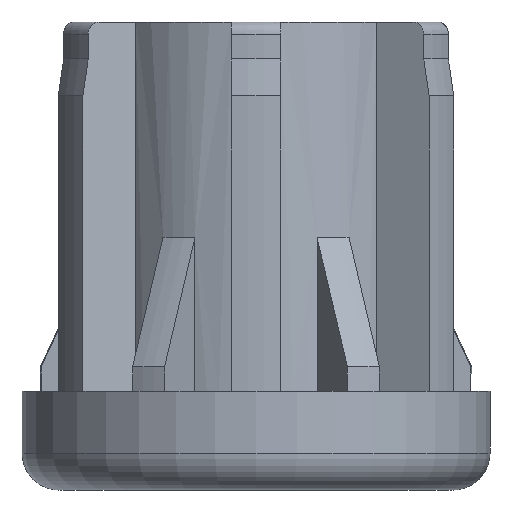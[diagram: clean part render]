
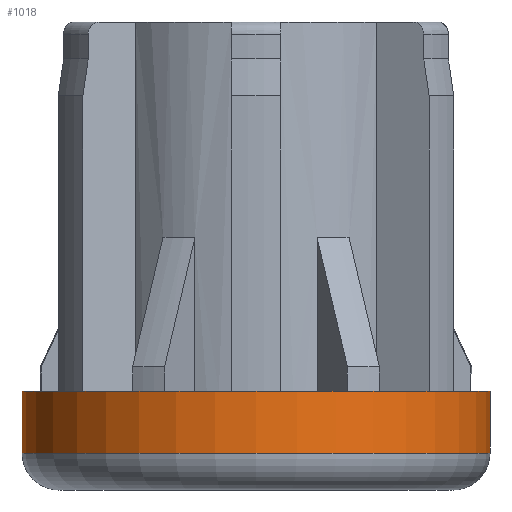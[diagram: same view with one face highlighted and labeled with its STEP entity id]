
A CAD part, front view. The second image highlights one B-rep face of the part: STEP entity #1018.
In plain terms, the highlighted cylindrical face has radius 19 mm (diameter 38 mm), a partial arc.
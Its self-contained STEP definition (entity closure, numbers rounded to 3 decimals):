
#1 = CARTESIAN_POINT ( 'NONE',  ( 266.209, 684.667, -5. ) ) ;
#3 = VECTOR ( 'NONE', #1321, 1000. ) ;
#7 = VECTOR ( 'NONE', #2627, 1000. ) ;
#304 = CARTESIAN_POINT ( 'NONE',  ( 285.209, 684.667, -8. ) ) ;
#418 = EDGE_LOOP ( 'NONE', ( #1104, #1641, #2207, #3028 ) ) ;
#490 = VERTEX_POINT ( 'NONE', #830 ) ;
#631 = LINE ( 'NONE', #1167, #7 ) ;
#653 = AXIS2_PLACEMENT_3D ( 'NONE', #1021, #2006, #1225 ) ;
#724 = EDGE_CURVE ( 'NONE', #2567, #2353, #631, .T. ) ;
#743 = EDGE_CURVE ( 'NONE', #2567, #490, #3022, .T. ) ;
#807 = LINE ( 'NONE', #870, #3 ) ;
#830 = CARTESIAN_POINT ( 'NONE',  ( 304.209, 684.667, -5. ) ) ;
#870 = CARTESIAN_POINT ( 'NONE',  ( 304.209, 684.667, -8. ) ) ;
#879 = AXIS2_PLACEMENT_3D ( 'NONE', #2226, #1019, #1012 ) ;
#887 = FACE_OUTER_BOUND ( 'NONE', #418, .T. ) ;
#1012 = DIRECTION ( 'NONE',  ( 1., 0., 0. ) ) ;
#1018 = ADVANCED_FACE ( 'NONE', ( #887 ), #3097, .T. ) ;
#1019 = DIRECTION ( 'NONE',  ( 0., 0., 1. ) ) ;
#1021 = CARTESIAN_POINT ( 'NONE',  ( 285.209, 684.667, -5. ) ) ;
#1062 = EDGE_CURVE ( 'NONE', #490, #2205, #807, .T. ) ;
#1078 = CARTESIAN_POINT ( 'NONE',  ( 304.209, 684.667, 0. ) ) ;
#1104 = ORIENTED_EDGE ( 'NONE', *, *, #724, .F. ) ;
#1167 = CARTESIAN_POINT ( 'NONE',  ( 266.209, 684.667, -8. ) ) ;
#1225 = DIRECTION ( 'NONE',  ( 1., 0., 0. ) ) ;
#1321 = DIRECTION ( 'NONE',  ( 0., 0., 1. ) ) ;
#1587 = DIRECTION ( 'NONE',  ( 1., 0., 0. ) ) ;
#1641 = ORIENTED_EDGE ( 'NONE', *, *, #743, .T. ) ;
#1846 = AXIS2_PLACEMENT_3D ( 'NONE', #304, #2579, #1587 ) ;
#2006 = DIRECTION ( 'NONE',  ( 0., 0., 1. ) ) ;
#2118 = CARTESIAN_POINT ( 'NONE',  ( 266.209, 684.667, 0. ) ) ;
#2205 = VERTEX_POINT ( 'NONE', #1078 ) ;
#2207 = ORIENTED_EDGE ( 'NONE', *, *, #1062, .T. ) ;
#2226 = CARTESIAN_POINT ( 'NONE',  ( 285.209, 684.667, 0. ) ) ;
#2353 = VERTEX_POINT ( 'NONE', #2118 ) ;
#2567 = VERTEX_POINT ( 'NONE', #1 ) ;
#2579 = DIRECTION ( 'NONE',  ( 0., 0., 1. ) ) ;
#2627 = DIRECTION ( 'NONE',  ( 0., 0., 1. ) ) ;
#2703 = EDGE_CURVE ( 'NONE', #2353, #2205, #2867, .T. ) ;
#2867 = CIRCLE ( 'NONE', #879, 19. ) ;
#3022 = CIRCLE ( 'NONE', #653, 19. ) ;
#3028 = ORIENTED_EDGE ( 'NONE', *, *, #2703, .F. ) ;
#3097 = CYLINDRICAL_SURFACE ( 'NONE', #1846, 19. ) ;
